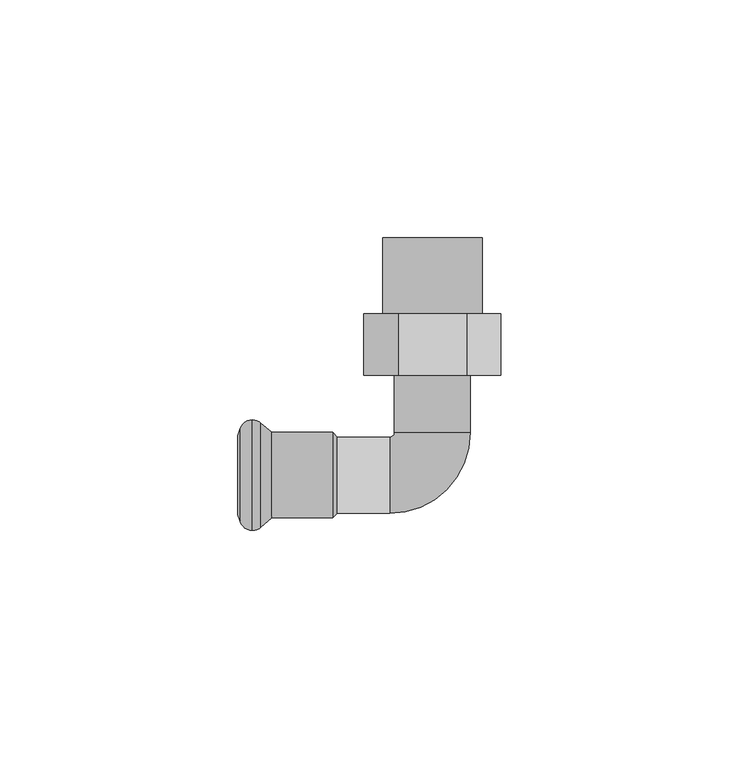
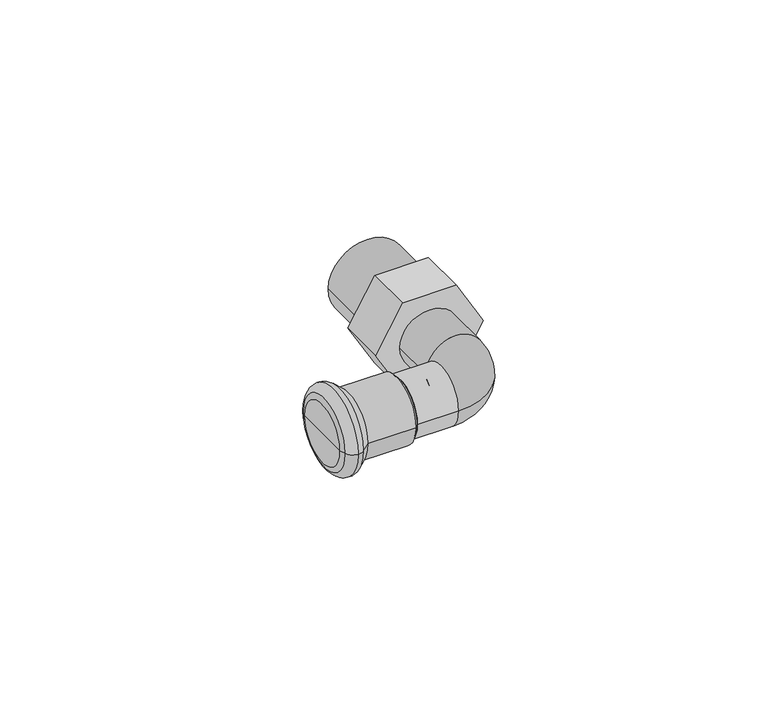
"""IFC4 building model written with IfcOpenShell, lengths in millimetres: pipe fitting geometry, KAN-therm Steel kolano z GZ : KAN-therm Steel kolano z GZ."""

import ifcopenshell
import ifcopenshell.guid

model = None  # the IFC model being written
_history = None  # IfcOwnerHistory: only IFC2X3 demands one
_inside = {}  # id of a spatial element -> (the spatial element, [elements in it])
_under = {}  # id of a project, library or spatial element -> (it, [spatial elements below it])
_declared = {}  # id of a project -> (the project, [libraries it declares])
_typed = {}  # id of a type object -> (the type object, [elements of that type])
_made_of = {}  # id of a material, layer set ... -> (it, [elements and type objects made of it])


def new_model(schema):
    """Start an empty IFC model of exactly this schema.

    Asked for "IFC4X3", IfcOpenShell would pick the latest addendum, in which some entities
    have other attributes; the version numbers below select the first issue.
    IFC2X3 requires an IfcOwnerHistory on every rooted entity: one is made here for all.
    """
    global model, _history
    if schema == "IFC4X3":
        model = ifcopenshell.file(schema_version=(4, 3, 0, 0))
    else:
        model = ifcopenshell.file(schema=schema)
    _inside.clear()
    _under.clear()
    _declared.clear()
    _typed.clear()
    _made_of.clear()
    _history = None
    if model.schema == "IFC2X3":
        org = make("IfcOrganization", Name="unknown")
        user = make(
            "IfcPersonAndOrganization",
            ThePerson=make("IfcPerson", FamilyName="unknown"),
            TheOrganization=org,
        )
        app = make(
            "IfcApplication",
            ApplicationDeveloper=org,
            Version="unknown",
            ApplicationFullName="unknown",
            ApplicationIdentifier="unknown",
        )
        _history = make(
            "IfcOwnerHistory",
            OwningUser=user,
            OwningApplication=app,
            ChangeAction="ADDED",
            CreationDate=0,
        )
    return model


def make(cls, **values):
    """One entity of the class cls with the attributes given. An attribute that is None is left unset."""
    return model.create_entity(
        cls, **{name: value for name, value in values.items() if value is not None}
    )


def rooted(cls, **values):
    """An entity with a GlobalId (a new one), such as an element, a storey or a relation."""
    return make(cls, GlobalId=ifcopenshell.guid.new(), OwnerHistory=_history, **values)


def si_unit(unit_type, name, prefix=None):
    """IfcSIUnit, for example si_unit("LENGTHUNIT", "METRE", prefix="MILLI")."""
    return make("IfcSIUnit", UnitType=unit_type, Prefix=prefix, Name=name)


def assignment(units):
    """IfcUnitAssignment: the units of a project."""
    return None if units is None else make("IfcUnitAssignment", Units=units)


def point(xyz):
    """IfcCartesianPoint."""
    return None if xyz is None else make("IfcCartesianPoint", Coordinates=xyz)


def direction(xyz):
    """IfcDirection."""
    return None if xyz is None else make("IfcDirection", DirectionRatios=xyz)


def frame(location, z_axis=None, x_axis=None):
    """IfcAxis2Placement3D, a coordinate frame: its origin and axes. An axis left out is left unset."""
    return make(
        "IfcAxis2Placement3D",
        Location=point(location),
        Axis=direction(z_axis),
        RefDirection=direction(x_axis),
    )


def frame_2d(location, x_axis=None):
    """IfcAxis2Placement2D, a coordinate frame in the plane: its origin and x axis."""
    return make(
        "IfcAxis2Placement2D", Location=point(location), RefDirection=direction(x_axis)
    )


def origin():
    """The frame at (0, 0, 0) with its axes left unset."""
    return frame((0.0, 0.0, 0.0))


def origin_2d():
    """The frame at (0, 0) in the plane with its x axis left unset."""
    return frame_2d((0.0, 0.0))


def place(relative_to, where):
    """IfcLocalPlacement: puts the frame where relative to a parent placement (None: the world)."""
    return make(
        "IfcLocalPlacement", PlacementRelTo=relative_to, RelativePlacement=where
    )


def context(
    kind, dimensions, precision=None, world=None, true_north=None, identifier=None
):
    """IfcGeometricRepresentationContext, for example the 3D "Model" context."""
    return make(
        "IfcGeometricRepresentationContext",
        ContextIdentifier=identifier,
        ContextType=kind,
        CoordinateSpaceDimension=dimensions,
        Precision=precision,
        WorldCoordinateSystem=world,
        TrueNorth=true_north,
    )


def project(units=None, contexts=None):
    """IfcProject with its units and contexts."""
    return rooted(
        "IfcProject",
        Name="project",
        RepresentationContexts=contexts,
        UnitsInContext=assignment(units),
    )


def spatial(cls, under=None, at=None, **own):
    """A site, building, storey or space (cls), placed at a placement, below another one or the project."""
    s = rooted(cls, ObjectPlacement=at, **own)
    if under is not None:
        _under.setdefault(under.id(), (under, []))[1].append(s)
    return s


def polyline(points):
    """IfcPolyline through the points."""
    return make("IfcPolyline", Points=[point(p) for p in points])


def circle_curve(where, radius):
    """IfcCircle in the frame where."""
    return make("IfcCircle", Position=where, Radius=radius)


def ellipse_curve(where, semi_axis1, semi_axis2):
    """IfcEllipse in the frame where."""
    return make(
        "IfcEllipse", Position=where, SemiAxis1=semi_axis1, SemiAxis2=semi_axis2
    )


def trimmed(basis, trim1, trim2, sense, master):
    """IfcTrimmedCurve: the piece of a basis curve between two trims."""
    return make(
        "IfcTrimmedCurve",
        BasisCurve=basis,
        Trim1=trim1,
        Trim2=trim2,
        SenseAgreement=sense,
        MasterRepresentation=master,
    )


def segment(curve, same_sense, transition):
    """IfcCompositeCurveSegment."""
    return make(
        "IfcCompositeCurveSegment",
        Transition=transition,
        SameSense=same_sense,
        ParentCurve=curve,
    )


def composite_curve(segments, self_intersect=None):
    """IfcCompositeCurve: segments joined end to end."""
    return make("IfcCompositeCurve", Segments=segments, SelfIntersect=self_intersect)


def outline(outer, holes=None, kind="AREA"):
    """IfcArbitraryClosedProfileDef: a profile drawn as a closed curve; with holes, ...WithVoids."""
    if holes is None:
        return make("IfcArbitraryClosedProfileDef", ProfileType=kind, OuterCurve=outer)
    return make(
        "IfcArbitraryProfileDefWithVoids",
        ProfileType=kind,
        OuterCurve=outer,
        InnerCurves=holes,
    )


def extrude(swept, where, along, depth):
    """IfcExtrudedAreaSolid: the profile swept, set in the frame where, extruded along a direction by depth."""
    return make(
        "IfcExtrudedAreaSolid",
        SweptArea=swept,
        Position=where,
        ExtrudedDirection=direction(along),
        Depth=depth,
    )


def shape(context_of_items, identifier, shape_type, items):
    """IfcShapeRepresentation: the items that make up one representation, for example the "Body"."""
    return make(
        "IfcShapeRepresentation",
        ContextOfItems=context_of_items,
        RepresentationIdentifier=identifier,
        RepresentationType=shape_type,
        Items=items,
    )


def source(mapping_origin, context_of_items, identifier, shape_type, items):
    """IfcRepresentationMap: a shape defined once, which mapped items show again and again."""
    return make(
        "IfcRepresentationMap",
        MappingOrigin=mapping_origin,
        MappedRepresentation=shape(context_of_items, identifier, shape_type, items),
    )


def transform(
    local_origin,
    x_axis=None,
    y_axis=None,
    z_axis=None,
    scale=None,
    scale2=None,
    scale3=None,
    uniform=True,
):
    """IfcCartesianTransformationOperator3D, or its non-uniform kind. x_axis, y_axis, z_axis: its Axis1, 2, 3."""
    if uniform:
        return make(
            "IfcCartesianTransformationOperator3D",
            Axis1=direction(x_axis),
            Axis2=direction(y_axis),
            LocalOrigin=point(local_origin),
            Scale=scale,
            Axis3=direction(z_axis),
        )
    return make(
        "IfcCartesianTransformationOperator3DnonUniform",
        Axis1=direction(x_axis),
        Axis2=direction(y_axis),
        LocalOrigin=point(local_origin),
        Scale=scale,
        Axis3=direction(z_axis),
        Scale2=scale2,
        Scale3=scale3,
    )


def mapped(mapping_source, mapping_target):
    """IfcMappedItem: shows the shape of a source again, moved by a transform."""
    return make(
        "IfcMappedItem", MappingSource=mapping_source, MappingTarget=mapping_target
    )


def made_of(thing, what):
    """Note that an element or type object is made of a material, layer set ...; save() writes the relation."""
    if what is not None:
        _made_of.setdefault(what.id(), (what, []))[1].append(thing)
    return thing


def element(
    cls,
    number,
    at=None,
    inside=None,
    cuts=None,
    type_object=None,
    material=None,
    context=None,
    identifier="Body",
    shape_type=None,
    held_by="IfcProductDefinitionShape",
    body=None,
    shapes=None,
    **own,
):
    """One element of the class cls, such as IfcWall. Its Tag is "e" and its number.

    at: its placement. inside: the storey or other place that contains it. cuts: it is an
    opening in that element (IfcRelVoidsElement). A single representation is given by context,
    identifier, shape_type and body (its items); several are given by shapes. held_by: the class
    of the entity that holds the representations. save() writes the other relations.
    """
    e = rooted(cls, Tag="e%d" % number, ObjectPlacement=at, **own)
    if body is not None:
        shapes = [shape(context, identifier, shape_type, body)]
    if shapes is not None:
        e.Representation = make(held_by, Representations=shapes)
    if inside is not None:
        _inside.setdefault(inside.id(), (inside, []))[1].append(e)
    if cuts is not None:
        rooted(
            "IfcRelVoidsElement", RelatingBuildingElement=cuts, RelatedOpeningElement=e
        )
    if type_object is not None:
        _typed.setdefault(type_object.id(), (type_object, []))[1].append(e)
    return made_of(e, material)


def aggregate(whole, parts):
    """IfcRelAggregates: a whole, such as a stair, and the parts it consists of."""
    return rooted("IfcRelAggregates", RelatingObject=whole, RelatedObjects=parts)


def save(model, path):
    """Write the relations noted so far, then the file.

    IfcRelAggregates (storeys below a building ...), IfcRelContainedInSpatialStructure (elements
    in a storey), IfcRelDefinesByType, IfcRelAssociatesMaterial and IfcRelDeclares: one each for
    every whole, place, type object, material and project.
    """
    for whole, parts in _under.values():
        aggregate(whole, parts)
    for where, things in _inside.values():
        rooted(
            "IfcRelContainedInSpatialStructure",
            RelatedElements=things,
            RelatingStructure=where,
        )
    for kind, things in _typed.values():
        rooted("IfcRelDefinesByType", RelatedObjects=things, RelatingType=kind)
    for what, things in _made_of.values():
        rooted("IfcRelAssociatesMaterial", RelatedObjects=things, RelatingMaterial=what)
    for by, libraries in _declared.values():
        rooted("IfcRelDeclares", RelatingContext=by, RelatedDefinitions=libraries)
    model.write(path)


def plane_surface(at):
    """IfcPlane: the flat surface through the origin of the frame at, square to its z axis."""
    return make("IfcPlane", Position=at)


def cylinder_surface(at, radius):
    """IfcCylindricalSurface: all points at the distance radius from the z axis of the frame at."""
    return make("IfcCylindricalSurface", Position=at, Radius=radius)


def revolved_surface(curve, axis_point, axis_direction):
    """IfcSurfaceOfRevolution: the curve turned about the line through axis_point along axis_direction."""
    return make(
        "IfcSurfaceOfRevolution",
        SweptCurve=make("IfcArbitraryOpenProfileDef", ProfileType="CURVE", Curve=curve),
        AxisPosition=make("IfcAxis1Placement", Location=point(axis_point), Axis=direction(axis_direction)),
    )


def advanced_brep(points, edges, surfaces, faces):
    """IfcAdvancedBrep: a solid bounded by faces that lie on surfaces and meet in shared edges.

    An edge is (start, end): straight between two places in points (the first is 0);
    or (start, end, curve); or (start, end, curve, False) where it runs against its curve.
    A face is (place in surfaces, loops), or (place, loops, False) where it looks against
    its surface's normal. A loop lists edges by number (the first is 1), with a minus sign
    where the edge is run from its end to its start. The first loop is the outer one.
    """
    corners = [point(p) for p in points]
    vertices = [make("IfcVertexPoint", VertexGeometry=c) for c in corners]
    made = []
    for start, end, *more in edges:
        made.append(
            make(
                "IfcEdgeCurve",
                EdgeStart=vertices[start],
                EdgeEnd=vertices[end],
                EdgeGeometry=more[0] if more else make("IfcPolyline", Points=[corners[start], corners[end]]),
                SameSense=more[1] if len(more) > 1 else True,
            )
        )
    hull = []
    for where, loops, *sense in faces:
        bounds = []
        for j, loop in enumerate(loops):
            ring = [make("IfcOrientedEdge", EdgeElement=made[abs(k) - 1], Orientation=k > 0) for k in loop]
            bounds.append(
                make(
                    "IfcFaceOuterBound" if j == 0 else "IfcFaceBound",
                    Bound=make("IfcEdgeLoop", EdgeList=ring),
                    Orientation=True,
                )
            )
        hull.append(make("IfcAdvancedFace", Bounds=bounds, FaceSurface=surfaces[where], SameSense=sense[0] if sense else True))
    return make("IfcAdvancedBrep", Outer=make("IfcClosedShell", CfsFaces=hull))


def pipe_fitting_72cbb903(model_context):
    return source(origin(), model_context, "Body", "SolidModel", [
        extrude(outline(composite_curve([segment(trimmed(circle_curve(origin_2d(), 10.5), [point((0.0, 10.5))], [point((0.0, -10.5))], False, "CARTESIAN"), True, "CONTINUOUS"), segment(trimmed(circle_curve(origin_2d(), 10.5), [point((0.0, -10.5))], [point((0.0, 10.5))], False, "CARTESIAN"), True, "CONTINUOUS")], self_intersect=False)), frame((0.0, 34.0, 0.0), z_axis=(0.0, 1.0, 0.0), x_axis=(0.0, 0.0, 1.0)), (0.0, 0.0, 1.0), 16.0),
        advanced_brep(
        [(-8.0, 21.0, 0.0), (8.0, 21.0, 0.0), (-8.0, 9.0, 0.0), (8.0, 9.0, 0.0), (-20.0, 8.0, 0.0), (-20.0, -8.0, 0.0), (-9.0, -8.0, 0.0), (-9.0, 8.0, 0.0)],
        [
            (0, 1, circle_curve(frame((0.0, 21.0, 0.0), z_axis=(0.0, 1.0, 0.0), x_axis=(1.0, 0.0, 0.0)), 8.0)),
            (1, 0, circle_curve(frame((0.0, 21.0, 0.0), z_axis=(0.0, 1.0, 0.0), x_axis=(1.0, 0.0, 0.0)), 8.0)),
            (0, 2),
            (2, 3, circle_curve(frame((0.0, 9.0, 0.0), z_axis=(0.0, 1.0, 0.0), x_axis=(1.0, 0.0, 0.0)), 8.0)),
            (3, 1),
            (3, 2, circle_curve(frame((0.0, 9.0, 0.0), z_axis=(0.0, 1.0, 0.0), x_axis=(1.0, 0.0, 0.0)), 8.0)),
            (4, 5, circle_curve(frame((-20.0, 0.0, 0.0), z_axis=(-1.0, 0.0, 0.0), x_axis=(0.0, -1.0, 0.0)), 8.0)),
            (5, 4, circle_curve(frame((-20.0, 0.0, 0.0), z_axis=(-1.0, 0.0, 0.0), x_axis=(0.0, -1.0, 0.0)), 8.0)),
            (6, 7, circle_curve(frame((-9.0, 0.0, 0.0), z_axis=(-1.0, 0.0, 0.0), x_axis=(0.0, -1.0, 0.0)), 8.0)),
            (7, 4),
            (5, 6),
            (7, 6, circle_curve(frame((-9.0, 0.0, 0.0), z_axis=(-1.0, 0.0, 0.0), x_axis=(0.0, -1.0, 0.0)), 8.0)),
            (6, 3, circle_curve(frame((-9.0, 9.0, 0.0), z_axis=(0.0, 0.0, 1.0), x_axis=(1.0, 0.0, 0.0)), 17.0)),
            (2, 7, circle_curve(frame((-9.0, 9.0, 0.0), z_axis=(0.0, 0.0, -1.0), x_axis=(1.0, 0.0, 0.0)), 1.0)),
        ],
        [
            plane_surface(frame((0.0, 21.0, 0.0), z_axis=(0.0, 1.0, 0.0), x_axis=(0.0, 0.0, 1.0))),
            cylinder_surface(frame((0.0, 21.0, 0.0), z_axis=(0.0, 1.0, 0.0), x_axis=(1.0, 0.0, 0.0)), 8.0),
            plane_surface(frame((-20.0, 0.0, 0.0), z_axis=(-1.0, 0.0, 0.0), x_axis=(0.0, 0.0, 1.0))),
            cylinder_surface(frame((-9.0, 0.0, 0.0), z_axis=(1.0, 0.0, 0.0), x_axis=(0.0, -1.0, 0.0)), 8.0),
            revolved_surface(trimmed(ellipse_curve(frame((0.0, 9.0, 0.0), z_axis=(0.0, 1.0, 0.0), x_axis=(1.0, 0.0, 0.0)), 8.0, 8.0), [point((-8.0, 9.0, 0.0))], [point((8.0, 9.0, 0.0))], True, "CARTESIAN"), (-9.0, 9.0, 0.0), (0.0, 0.0, -1.0)),
            revolved_surface(trimmed(ellipse_curve(frame((0.0, 9.0, 0.0), z_axis=(0.0, 1.0, 0.0), x_axis=(1.0, 0.0, 0.0)), 8.0, 8.0), [point((8.0, 9.0, 0.0))], [point((-8.0, 9.0, 0.0))], True, "CARTESIAN"), (-9.0, 9.0, 0.0), (0.0, 0.0, -1.0)),
        ],
        [
            (0, [[1, 2]]),
            (1, [[-1, 3, 4, 5]]),
            (1, [[-2, -5, 6, -3]]),
            (2, [[7, 8]]),
            (3, [[9, 10, -8, 11]]),
            (3, [[12, -11, -7, -10]]),
            (4, [[13, -4, 14, -9]]),
            (5, [[-14, -6, -13, -12]]),
        ],
    ),
        extrude(outline(polyline([(0.0, 14.4337567), (12.5, 7.2168784), (12.5, -7.2168784), (0.0, -14.4337567), (-12.5, -7.2168784), (-12.5, 7.2168784), (0.0, 14.4337567)])), frame((0.0, 21.0, 0.0), z_axis=(0.0, 1.0, 0.0), x_axis=(0.0, 0.0, 1.0)), (0.0, 0.0, 1.0), 13.0),
        advanced_brep(
        [(-33.7838092, -9.0, 0.0), (-33.7838092, 9.0, 0.0), (-21.0, 9.0, 0.0), (-21.0, -9.0, 0.0), (-36.0922627, -10.9370225, 0.0), (-36.0922627, 10.9370225, 0.0), (-37.8921278, -11.625, 0.0), (-37.8921278, 11.625, 0.0), (-40.432052, -9.8484544, 0.0), (-40.432052, 9.8484544, 0.0), (-41.0, -8.2880302, 0.0), (-41.0, 8.2880302, 0.0), (-41.0, 0.0, 0.0), (-20.0, 8.0, 0.0), (-20.0, -8.0, 0.0), (-20.0, 0.0, 0.0)],
        [
            (0, 1, circle_curve(frame((-33.7838092, 0.0, 0.0), z_axis=(1.0, 0.0, 0.0), x_axis=(0.0, 1.0, 0.0)), 9.0)),
            (1, 2),
            (2, 3, circle_curve(frame((-21.0, 0.0, 0.0), z_axis=(-1.0, 0.0, 0.0), x_axis=(0.0, 1.0, 0.0)), 9.0)),
            (3, 0),
            (1, 0, circle_curve(frame((-33.7838092, 0.0, 0.0), z_axis=(1.0, 0.0, 0.0), x_axis=(0.0, 1.0, 0.0)), 9.0)),
            (3, 2, circle_curve(frame((-21.0, 0.0, 0.0), z_axis=(-1.0, 0.0, 0.0), x_axis=(0.0, 1.0, 0.0)), 9.0)),
            (4, 5, circle_curve(frame((-36.0922627, 0.0, 0.0), z_axis=(1.0, 0.0, 0.0), x_axis=(0.0, 1.0, 0.0)), 10.9370225)),
            (5, 1),
            (0, 4),
            (5, 4, circle_curve(frame((-36.0922627, 0.0, 0.0), z_axis=(1.0, 0.0, 0.0), x_axis=(0.0, 1.0, 0.0)), 10.9370225)),
            (6, 7, circle_curve(frame((-37.8921278, 0.0, 0.0), z_axis=(1.0, 0.0, 0.0), x_axis=(0.0, 1.0, 0.0)), 11.625)),
            (7, 5, circle_curve(frame((-37.8935049, 8.9230333, 0.0), z_axis=(0.0, 0.0, -1.0), x_axis=(1.0, 0.0, 0.0)), 2.701967)),
            (4, 6, circle_curve(frame((-37.8935049, -8.9230333, 0.0), z_axis=(0.0, 0.0, -1.0), x_axis=(1.0, 0.0, 0.0)), 2.701967)),
            (7, 6, circle_curve(frame((-37.8921278, 0.0, 0.0), z_axis=(1.0, 0.0, 0.0), x_axis=(0.0, 1.0, 0.0)), 11.625)),
            (8, 9, circle_curve(frame((-40.432052, 0.0, 0.0), z_axis=(1.0, 0.0, 0.0), x_axis=(0.0, 1.0, 0.0)), 9.8484544)),
            (9, 7, circle_curve(frame((-37.89488, 8.9249993, 0.0), z_axis=(0.0, 0.0, -1.0), x_axis=(1.0, 0.0, 0.0)), 2.7000021)),
            (6, 8, circle_curve(frame((-37.89488, -8.9249993, 0.0), z_axis=(0.0, 0.0, -1.0), x_axis=(1.0, 0.0, 0.0)), 2.7000021)),
            (9, 8, circle_curve(frame((-40.432052, 0.0, 0.0), z_axis=(1.0, 0.0, 0.0), x_axis=(0.0, 1.0, 0.0)), 9.8484544)),
            (10, 11, circle_curve(frame((-41.0, 0.0, 0.0), z_axis=(1.0, 0.0, 0.0), x_axis=(0.0, 1.0, 0.0)), 8.2880302)),
            (11, 9),
            (8, 10),
            (11, 10, circle_curve(frame((-41.0, 0.0, 0.0), z_axis=(1.0, 0.0, 0.0), x_axis=(0.0, 1.0, 0.0)), 8.2880302)),
            (12, 11),
            (10, 12),
            (2, 13),
            (13, 14, circle_curve(frame((-20.0, 0.0, 0.0), z_axis=(-1.0, 0.0, 0.0), x_axis=(0.0, 1.0, 0.0)), 8.0)),
            (14, 3),
            (14, 13, circle_curve(frame((-20.0, 0.0, 0.0), z_axis=(-1.0, 0.0, 0.0), x_axis=(0.0, 1.0, 0.0)), 8.0)),
            (13, 15),
            (15, 14),
        ],
        [
            cylinder_surface(frame((1334.742668, 0.0, 0.0), z_axis=(-1.0, 0.0, 0.0), x_axis=(0.0, 1.0, 0.0)), 9.0),
            revolved_surface(polyline([(-33.7838092, 9.0, 0.0), (-36.0922627, 10.9370225, 0.0)]), (1334.742668, 0.0, 0.0), (-1.0, 0.0, 0.0)),
            revolved_surface(trimmed(ellipse_curve(frame((-37.8935049, 8.9230333, 0.0), z_axis=(0.0, 0.0, 1.0), x_axis=(1.0, 0.0, 0.0)), 2.701967, 2.701967), [point((-36.0922627, 10.9370225, 0.0))], [point((-37.8921278, 11.625, 0.0))], True, "CARTESIAN"), (1334.742668, 0.0, 0.0), (-1.0, 0.0, 0.0)),
            revolved_surface(trimmed(ellipse_curve(frame((-37.89488, 8.9249993, 0.0), z_axis=(0.0, 0.0, 1.0), x_axis=(1.0, 0.0, 0.0)), 2.7000021, 2.7000021), [point((-37.8921278, 11.625, 0.0))], [point((-40.432052, 9.8484544, 0.0))], True, "CARTESIAN"), (1334.742668, 0.0, 0.0), (-1.0, 0.0, 0.0)),
            revolved_surface(polyline([(-40.432052, 9.8484544, 0.0), (-41.0, 8.2880302, 0.0)]), (1334.742668, 0.0, 0.0), (-1.0, 0.0, 0.0)),
            plane_surface(frame((-41.0, 0.0, 0.0), z_axis=(-1.0, 0.0, 0.0), x_axis=(0.0, 1.0, 0.0))),
            revolved_surface(polyline([(-20.0, 8.0, 0.0), (-21.0, 9.0, 0.0)]), (1334.742668, 0.0, 0.0), (-1.0, 0.0, 0.0)),
            plane_surface(frame((-20.0, 0.0, 0.0), z_axis=(1.0, 0.0, 0.0), x_axis=(0.0, 1.0, 0.0))),
        ],
        [
            (0, [[1, 2, 3, 4]]),
            (0, [[5, -4, 6, -2]]),
            (1, [[7, 8, -1, 9]]),
            (1, [[10, -9, -5, -8]]),
            (2, [[11, 12, -7, 13]]),
            (2, [[14, -13, -10, -12]]),
            (3, [[15, 16, -11, 17]]),
            (3, [[18, -17, -14, -16]]),
            (4, [[19, 20, -15, 21]]),
            (4, [[22, -21, -18, -20]]),
            (5, [[23, -19, 24]]),
            (5, [[-24, -22, -23]]),
            (6, [[-3, 25, 26, 27]]),
            (6, [[-6, -27, 28, -25]]),
            (7, [[-26, 29, 30]]),
            (7, [[-28, -30, -29]]),
        ],
    ),
    ])


if __name__ == "__main__":
    model = new_model("IFC4")
    model_context = context("Model", 3, world=origin())
    ifc_project = project(units=[si_unit("LENGTHUNIT", "METRE", prefix="MILLI")], contexts=[model_context])
    site = spatial("IfcSite", under=ifc_project)
    building = spatial("IfcBuilding", under=site)
    placement = place(None, origin())
    pipe_fitting_shape = pipe_fitting_72cbb903(model_context)
    element("IfcPipeFitting", 1, ObjectType="KAN-therm Steel kolano z GZ : KAN-therm Steel kolano z GZ", at=placement, inside=building, context=model_context, shape_type="MappedRepresentation", body=[
        mapped(pipe_fitting_shape, transform((0.0, 0.0, 0.0), x_axis=(1.0, 0.0, 0.0), y_axis=(0.0, 1.0, 0.0), z_axis=(0.0, 0.0, 1.0))),
    ])
    save(model, "model.ifc")
